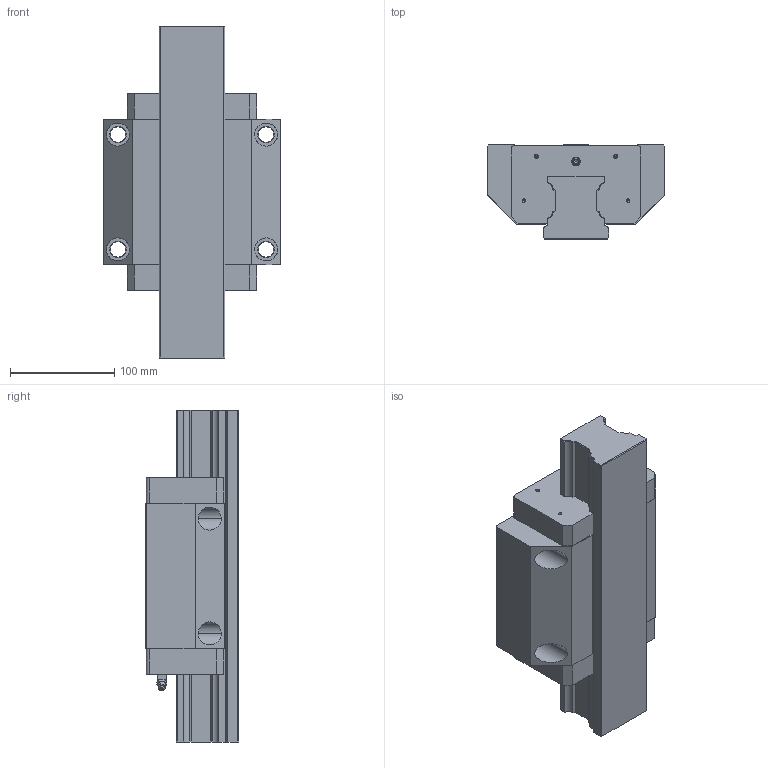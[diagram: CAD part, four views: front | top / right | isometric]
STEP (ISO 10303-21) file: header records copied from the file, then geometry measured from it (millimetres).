
FILE_DESCRIPTION((''),'2;1');
FILE_NAME('KWC_065_FNS_CS__ASM','2021-10-13T04:44:33',('ac91sw'),(''),'CREO PARAMETRIC BY PTC INC, 2020044','CREO PARAMETRIC BY PTC INC, 2020044','');
FILE_SCHEMA(('AUTOMOTIVE_DESIGN { 1 0 10303 214 1 1 1 1 }'));
Length unit declared in the file: millimetre
Products named in the file (7): KWC_065_FNS_CS__SKEL; R169160041; R160160012_Z; KWC_065_FNS_CS__PSF; R343702601_Z; R341700702_Z; KWC_065_FNS_CS__ASM
Assembly tree (7 placements, depth 2):
  KWC_065_FNS_CS__ASM
    KWC_065_FNS_CS__SKEL
    R169160041
    R160160012_Z  x2
    KWC_065_FNS_CS__PSF
    R343702601_Z
    R341700702_Z
Bounding box: 170 x 90 x 318 mm (x, y, z)
Volume: 2341874.2 mm3; surface area: 284817.4 mm2
Topology: 6 solids, 19 shells, 341 faces, 859 edges, 539 vertices
Faces by surface type: plane 177, cylinder 106, cone 54, bspline 2, sphere 2
Entity records: 14855 total; most frequent: CARTESIAN_POINT 1935, DIRECTION 1515, ORIENTED_EDGE 1362, PROPERTY_DEFINITION 820, REPRESENTATION 812, PROPERTY_DEFINITION_REPRESENTATION 812, DESCRIPTIVE_REPRESENTATION_ITEM 757, GENERAL_PROPERTY 752
